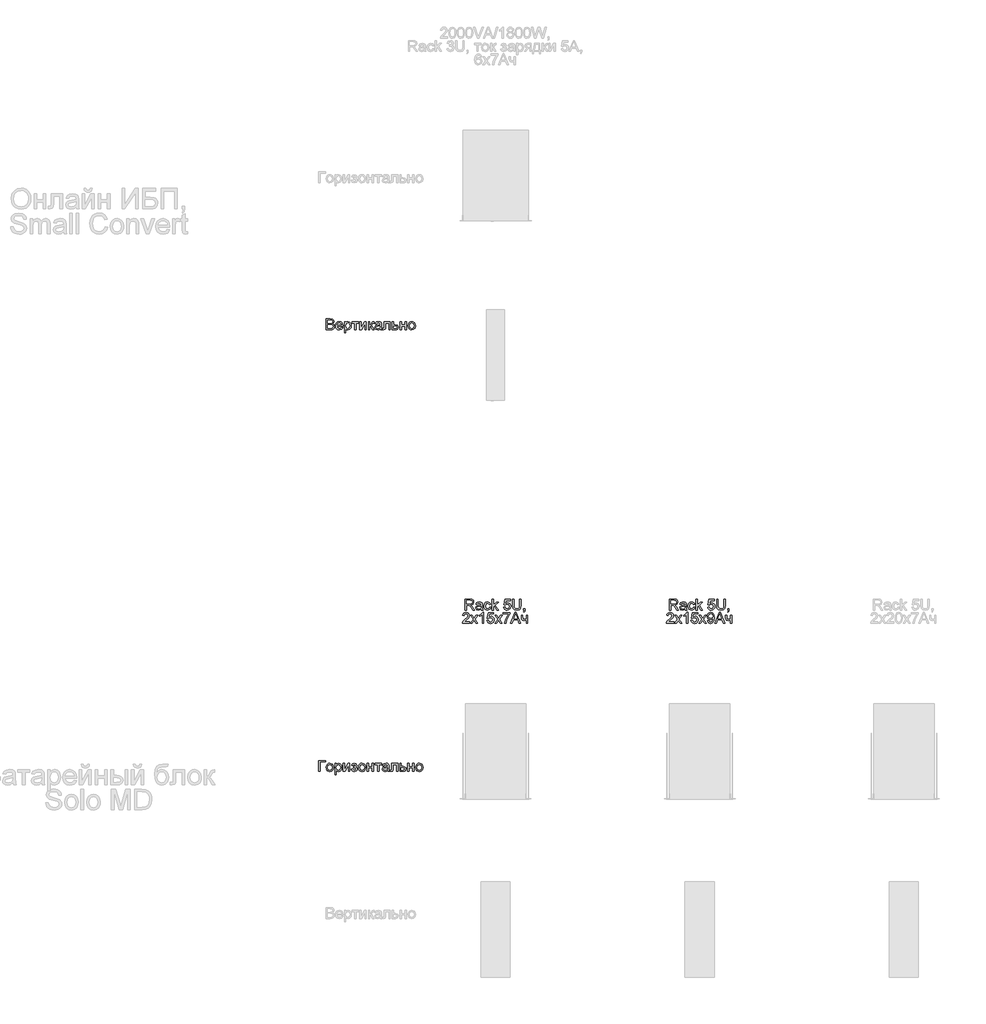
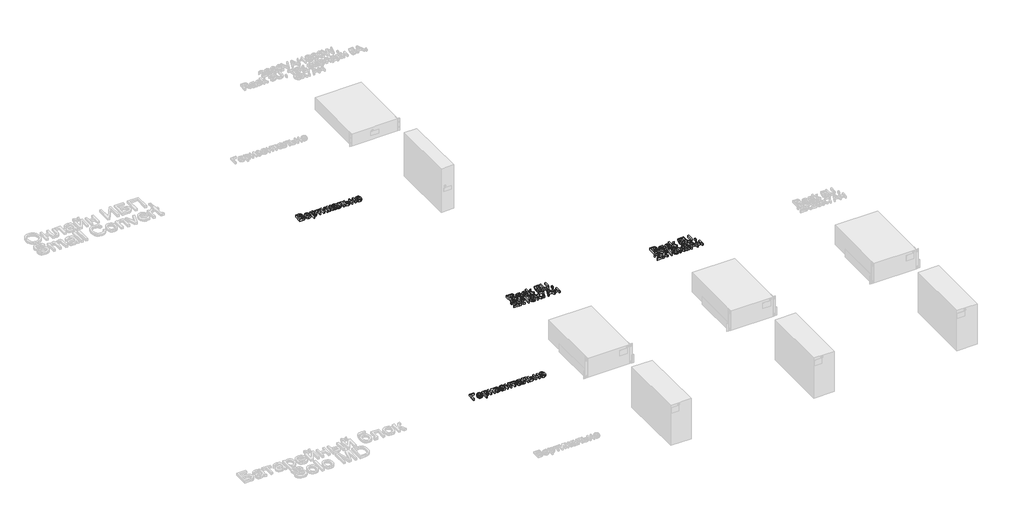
# One storey, part 10 of 74: 4 proxies.
"""IFC4 building model written with IfcOpenShell, lengths in millimetres."""

from ifc_helpers import new_model, si_unit, origin, origin_with_axes, place, context, project, spatial, polyline, outline, extrude, element, save

model = new_model("IFC4")

# Units and contexts
model_context = context("Model", 3, world=origin())
ifc_project = project(units=[si_unit("LENGTHUNIT", "METRE", prefix="MILLI")], contexts=[model_context])

# Site, building, storey
site = spatial("IfcSite", under=ifc_project)
building = spatial("IfcBuilding", under=site)
storey = spatial("IfcBuildingStorey", under=building, Name="Этаж 01", Elevation=0.0)

# Proxies
placement = place(None, origin())
element("IfcBuildingElementProxy", 1, Name="80 мм Arial", ObjectType="80 мм Arial", at=placement, inside=storey, context=model_context, shape_type="SweptSolid", body=[
    extrude(outline(polyline([(107.354428, -36510.0529622), (107.354428, -36429.6879141), (138.0210711, -36429.6879141), (153.0404667, -36432.052169), (161.9088753, -36439.3215172), (165.1168063, -36449.6025927), (162.419005, -36458.9909412), (154.26674, -36466.1033265), (164.1652182, -36473.598309), (167.6282141, -36486.0964867), (165.2639591, -36496.897502), (159.4072778, -36504.5886883), (150.6664016, -36508.6697259), (137.7856266, -36510.0529622), (107.354428, -36510.0529622)]), holes=[polyline([(117.400059, -36462.3362149), (135.7451078, -36462.3362149), (146.4578315, -36461.4729184), (152.9031241, -36457.7548577), (155.0711753, -36451.2114633), (153.0502769, -36444.6582587), (147.2622668, -36440.783235), (134.3520613, -36439.7335451), (117.400059, -36439.7335451), (117.400059, -36462.3362149)]), polyline([(117.400059, -36500.0073312), (138.0014507, -36500.0073312), (145.4571925, -36499.6149237), (151.7651425, -36497.4272521), (155.9442819, -36492.9636172), (157.5825831, -36486.1945885), (155.6597865, -36478.38568), (149.4303181, -36473.7258414), (137.0204321, -36472.3818459), (117.400059, -36472.3818459), (117.400059, -36500.0073312)])]), origin_with_axes(), (0.0, 0.0, 1.0), 20.0),
    extrude(outline(polyline([(221.5057586, -36492.4731079), (231.3551858, -36493.7288118), (222.1434207, -36506.6978784), (204.9854044, -36511.3086661), (193.1984653, -36509.3196507), (184.1289478, -36503.3526048), (178.3458429, -36493.7950305), (176.4181412, -36481.0344304), (178.3654633, -36467.8446346), (184.2074293, -36457.980492), (193.1543195, -36451.8295051), (204.4164136, -36449.7791761), (215.3277936, -36451.8246), (224.0465969, -36457.9608717), (229.7634831, -36467.8053938), (231.6691118, -36480.9755693), (231.6102507, -36483.6831808), (186.4637722, -36483.6831808), (192.2419721, -36496.7307289), (205.1816082, -36501.263035), (215.0310354, -36499.1636551), (221.5057586, -36492.4731079)]), holes=[polyline([(186.4637722, -36473.6375497), (221.6234808, -36473.6375497), (217.6013043, -36464.5336966), (204.3771729, -36459.8248071), (192.0065276, -36463.5821085), (186.4637722, -36473.6375497)])]), origin_with_axes(), (0.0, 0.0, 1.0), 20.0),
    extrude(outline(polyline([(241.7147428, -36532.655632), (241.7147428, -36451.03488), (251.7603738, -36451.03488), (251.7603738, -36460.8843072), (258.7059859, -36452.5554589), (268.0845242, -36449.7791761), (280.8181464, -36453.66401), (289.1371845, -36464.6121781), (291.9428979, -36480.0926525), (288.7742076, -36496.367752), (279.5722527, -36507.4532627), (266.8680611, -36511.3086661), (258.1271849, -36508.728587), (251.7603738, -36502.2048129), (251.7603738, -36532.655632), (241.7147428, -36532.655632)]), holes=[polyline([(251.7603738, -36481.01481), (256.1062865, -36496.318701), (266.652237, -36501.263035), (277.4140116, -36496.1421177), (281.8972669, -36480.2692358), (277.5219237, -36464.9261041), (267.0642648, -36459.8248071), (256.4005921, -36465.2498403), (251.7603738, -36481.01481)])]), origin_with_axes(), (0.0, 0.0, 1.0), 20.0),
    extrude(outline(polyline([(298.2214173, -36451.03488), (345.9381646, -36451.03488), (345.9381646, -36461.080511), (327.1026064, -36461.080511), (327.1026064, -36510.0529622), (317.0569754, -36510.0529622), (317.0569754, -36461.080511), (298.2214173, -36461.080511), (298.2214173, -36451.03488)])), origin_with_axes(), (0.0, 0.0, 1.0), 20.0),
    extrude(outline(polyline([(354.7280917, -36451.03488), (364.7737228, -36451.03488), (364.7737228, -36496.0440158), (389.4561521, -36451.03488), (402.4448391, -36451.03488), (402.4448391, -36510.0529622), (392.399208, -36510.0529622), (392.399208, -36465.3185116), (367.8737417, -36510.0529622), (354.7280917, -36510.0529622), (354.7280917, -36451.03488)])), origin_with_axes(), (0.0, 0.0, 1.0), 20.0),
    extrude(outline(polyline([(417.5132856, -36451.03488), (427.5589166, -36451.03488), (427.5589166, -36476.1489575), (434.2887046, -36474.3438832), (439.8020294, -36463.8273632), (444.3833865, -36454.7529407), (448.4251834, -36451.8000745), (455.7730131, -36451.03488), (457.6958096, -36451.03488), (457.6958096, -36461.1393721), (454.9881982, -36461.080511), (450.0831049, -36462.1400111), (446.6299192, -36468.7520769), (442.5783122, -36475.9037028), (436.8982142, -36479.4059394), (443.2355947, -36483.3152988), (449.455253, -36491.5509504), (460.2072174, -36510.0529622), (448.7881603, -36510.0529622), (438.2520199, -36491.9433578), (432.9545192, -36484.2816021), (427.5589166, -36482.4274769), (427.5589166, -36510.0529622), (417.5132856, -36510.0529622), (417.5132856, -36451.03488)])), origin_with_axes(), (0.0, 0.0, 1.0), 20.0),
    extrude(outline(polyline([(504.1568531, -36502.5187389), (494.4153379, -36509.3270084), (483.6535632, -36511.3086661), (469.0658158, -36506.5409154), (463.974329, -36494.3566637), (465.8971256, -36486.4104126), (470.9493717, -36480.6420229), (477.9832754, -36477.3458003), (486.6751007, -36475.8350315), (504.097992, -36472.3818459), (504.1568531, -36470.1451233), (501.3903805, -36462.7286223), (490.2852493, -36459.8248071), (480.1218961, -36461.7574138), (475.2756639, -36468.6147342), (465.2300329, -36467.3590304), (469.5759455, -36457.5488438), (478.3266319, -36451.8000745), (491.5801939, -36449.7791761), (503.7546354, -36451.56463), (510.6315762, -36456.0478853), (513.7119748, -36462.8659649), (514.2024841, -36471.6558921), (514.2024841, -36484.1540697), (514.7126138, -36501.6063916), (516.7138919, -36510.0529622), (506.6682608, -36510.0529622), (504.1568531, -36502.5187389)]), holes=[polyline([(504.1568531, -36482.4274769), (487.9504249, -36485.5078755), (479.3076506, -36487.1363664), (475.3933862, -36489.7851168), (474.01996, -36493.6503303), (477.0120669, -36499.0851736), (485.7921839, -36501.263035), (495.9555371, -36498.8595393), (502.5087417, -36493.0420987), (504.097992, -36485.272431), (504.1568531, -36482.4274769)])]), origin_with_axes(), (0.0, 0.0, 1.0), 20.0),
    extrude(outline(polyline([(533.0380423, -36451.03488), (578.2433818, -36451.03488), (578.2433818, -36509.9941011), (568.1977508, -36509.9941011), (568.1977508, -36461.080511), (543.0836733, -36461.080511), (543.0836733, -36489.2357463), (542.4067704, -36502.2244333), (538.6887097, -36507.7083276), (529.8987826, -36510.0529622), (521.7367074, -36509.5428325), (521.7367074, -36500.0073312), (526.2297728, -36500.0073312), (530.7718892, -36499.3892894), (532.5867737, -36497.4272521), (533.0380423, -36488.6667555), (533.0380423, -36451.03488)])), origin_with_axes(), (0.0, 0.0, 1.0), 20.0),
    extrude(outline(polyline([(593.3118283, -36451.03488), (603.3574594, -36451.03488), (603.3574594, -36472.3818459), (614.9334795, -36472.3818459), (632.3956115, -36477.4144716), (636.9867788, -36483.4011379), (638.5171679, -36491.2958855), (633.3079589, -36504.5494475), (626.5364776, -36508.6770835), (616.6404519, -36510.0529622), (593.3118283, -36510.0529622), (593.3118283, -36451.03488)]), holes=[polyline([(603.3574594, -36500.0073312), (612.7359977, -36500.0073312), (624.8515781, -36497.8981411), (628.4715369, -36491.3155059), (625.793356, -36485.1350884), (613.9328404, -36482.4274769), (603.3574594, -36482.4274769), (603.3574594, -36500.0073312)])]), origin_with_axes(), (0.0, 0.0, 1.0), 20.0),
    extrude(outline(polyline([(651.0742067, -36451.03488), (661.1198377, -36451.03488), (661.1198377, -36473.6375497), (687.4896191, -36473.6375497), (687.4896191, -36451.03488), (697.5352501, -36451.03488), (697.5352501, -36510.0529622), (687.4896191, -36510.0529622), (687.4896191, -36483.6831808), (661.1198377, -36483.6831808), (661.1198377, -36510.0529622), (651.0742067, -36510.0529622), (651.0742067, -36451.03488)])), origin_with_axes(), (0.0, 0.0, 1.0), 20.0),
    extrude(outline(polyline([(710.0922889, -36480.5439211), (712.2652452, -36466.3142455), (718.7841142, -36456.3127603), (726.8382773, -36451.4125721), (736.4816907, -36449.7791761), (747.0349989, -36451.7681914), (755.4644016, -36457.7352374), (760.9899892, -36467.209425), (762.8318517, -36479.7198654), (759.5748698, -36497.5940253), (750.0884194, -36507.7083276), (736.4816907, -36511.3086661), (725.8008501, -36509.3270084), (717.3812575, -36503.3820353), (711.914531, -36493.7091914), (710.0922889, -36480.5439211)]), holes=[polyline([(720.1379199, -36480.5243007), (724.7879483, -36496.0930667), (736.4816907, -36501.263035), (748.1361923, -36496.0636362), (752.7862207, -36480.2103747), (748.1067617, -36464.9947754), (736.4816907, -36459.8248071), (724.7879483, -36464.975155), (720.1379199, -36480.5243007)])]), origin_with_axes(), (0.0, 0.0, 1.0), 20.0),
])
element("IfcBuildingElementProxy", 2, Name="80 мм Arial", ObjectType="80 мм Arial", at=placement, inside=storey, context=model_context, shape_type="SweptSolid", body=[
    extrude(outline(polyline([(52.7313094, -39673.3898798), (102.9594644, -39673.3898798), (102.9594644, -39683.4355108), (62.7769404, -39683.4355108), (62.7769404, -39753.7549279), (52.7313094, -39753.7549279), (52.7313094, -39673.3898798)])), origin_with_axes(), (0.0, 0.0, 1.0), 20.0),
    extrude(outline(polyline([(107.9822799, -39724.2458868), (110.1552363, -39710.0162112), (116.6741052, -39700.0147261), (124.7282684, -39695.1145379), (134.3716817, -39693.4811418), (144.9249899, -39695.4701571), (153.3543927, -39701.4372031), (158.8799802, -39710.9113907), (160.7218428, -39723.4218311), (157.4648608, -39741.295991), (147.9784105, -39751.4102933), (134.3716817, -39755.0106318), (123.6908411, -39753.0289741), (115.2712485, -39747.0840011), (109.8045221, -39737.4111571), (107.9822799, -39724.2458868)]), holes=[polyline([(118.027911, -39724.2262664), (122.6779394, -39739.7950325), (134.3716817, -39744.9650008), (146.0261833, -39739.7656019), (150.6762117, -39723.9123405), (145.9967528, -39708.6967411), (134.3716817, -39703.5267728), (122.6779394, -39708.6771208), (118.027911, -39724.2262664)])]), origin_with_axes(), (0.0, 0.0, 1.0), 20.0),
    extrude(outline(polyline([(172.0231777, -39776.3575977), (172.0231777, -39694.7368457), (182.0688087, -39694.7368457), (182.0688087, -39704.586273), (189.0144207, -39696.2574246), (198.3929591, -39693.4811418), (211.1265812, -39697.3659757), (219.4456194, -39708.3141439), (222.2513327, -39723.7946182), (219.0826425, -39740.0697177), (209.8806875, -39751.1552285), (197.1764959, -39755.0106318), (188.4356197, -39752.4305527), (182.0688087, -39745.9067787), (182.0688087, -39776.3575977), (172.0231777, -39776.3575977)]), holes=[polyline([(182.0688087, -39724.7167758), (186.4147213, -39740.0206668), (196.9606718, -39744.9650008), (207.7224465, -39739.8440834), (212.2057017, -39723.9712016), (207.8303585, -39708.6280698), (197.3726997, -39703.5267728), (186.7090269, -39708.951806), (182.0688087, -39724.7167758)])]), origin_with_axes(), (0.0, 0.0, 1.0), 20.0),
    extrude(outline(polyline([(233.5526676, -39694.7368457), (243.5982986, -39694.7368457), (243.5982986, -39739.7459815), (268.280728, -39694.7368457), (281.2694149, -39694.7368457), (281.2694149, -39753.7549279), (271.2237839, -39753.7549279), (271.2237839, -39709.0204773), (246.6983176, -39753.7549279), (233.5526676, -39753.7549279), (233.5526676, -39694.7368457)])), origin_with_axes(), (0.0, 0.0, 1.0), 20.0),
    extrude(outline(polyline([(310.1506041, -39727.3851465), (310.1506041, -39717.3395155), (318.0772348, -39716.947108), (322.0797909, -39714.8575383), (323.9633468, -39710.4920053), (321.4421288, -39705.4201388), (314.9379751, -39703.5267728), (308.2179974, -39705.4103286), (303.8720847, -39711.0609961), (292.5707498, -39709.8052922), (300.1245935, -39697.5621794), (313.9177157, -39693.4811418), (328.6722363, -39698.4549064), (334.0089778, -39710.3350423), (332.1107067, -39716.5743209), (326.4158934, -39721.4009327), (333.0573897, -39727.6598317), (335.2646816, -39736.665583), (333.8642775, -39744.0600111), (329.6630651, -39749.919145), (313.9961972, -39755.0106318), (298.5451534, -39750.3017422), (291.315046, -39736.1750736), (302.6163809, -39734.9193698), (307.148687, -39742.3358708), (314.9575955, -39744.9650008), (322.295615, -39742.4437828), (325.2190506, -39735.9984903), (323.4041661, -39730.7206099), (319.5389526, -39727.8952762), (312.1126414, -39727.3262854), (310.1506041, -39727.3851465)])), origin_with_axes(), (0.0, 0.0, 1.0), 20.0),
    extrude(outline(polyline([(345.3103127, -39724.2458868), (347.483269, -39710.0162112), (354.0021379, -39700.0147261), (362.0563011, -39695.1145379), (371.6997145, -39693.4811418), (382.2530226, -39695.4701571), (390.6824254, -39701.4372031), (396.208013, -39710.9113907), (398.0498755, -39723.4218311), (394.7928936, -39741.295991), (385.3064432, -39751.4102933), (371.6997145, -39755.0106318), (361.0188739, -39753.0289741), (352.5992813, -39747.0840011), (347.1325548, -39737.4111571), (345.3103127, -39724.2458868)]), holes=[polyline([(355.3559437, -39724.2262664), (360.0059721, -39739.7950325), (371.6997145, -39744.9650008), (383.3542161, -39739.7656019), (388.0042445, -39723.9123405), (383.3247855, -39708.6967411), (371.6997145, -39703.5267728), (360.0059721, -39708.6771208), (355.3559437, -39724.2262664)])]), origin_with_axes(), (0.0, 0.0, 1.0), 20.0),
    extrude(outline(polyline([(409.3512104, -39694.7368457), (419.3968414, -39694.7368457), (419.3968414, -39717.3395155), (445.7666228, -39717.3395155), (445.7666228, -39694.7368457), (455.8122538, -39694.7368457), (455.8122538, -39753.7549279), (445.7666228, -39753.7549279), (445.7666228, -39727.3851465), (419.3968414, -39727.3851465), (419.3968414, -39753.7549279), (409.3512104, -39753.7549279), (409.3512104, -39694.7368457)])), origin_with_axes(), (0.0, 0.0, 1.0), 20.0),
    extrude(outline(polyline([(465.8578848, -39694.7368457), (513.5746322, -39694.7368457), (513.5746322, -39704.7824767), (494.739074, -39704.7824767), (494.739074, -39753.7549279), (484.693443, -39753.7549279), (484.693443, -39704.7824767), (465.8578848, -39704.7824767), (465.8578848, -39694.7368457)])), origin_with_axes(), (0.0, 0.0, 1.0), 20.0),
    extrude(outline(polyline([(560.0356756, -39746.2207046), (550.2941604, -39753.0289741), (539.5323857, -39755.0106318), (524.9446384, -39750.2428811), (519.8531515, -39738.0586294), (521.7759481, -39730.1123783), (526.8281942, -39724.3439887), (533.8620979, -39721.047766), (542.5539232, -39719.5369973), (559.9768145, -39716.0838116), (560.0356756, -39713.8470891), (557.269203, -39706.430588), (546.1640718, -39703.5267728), (536.0007186, -39705.4593796), (531.1544864, -39712.3167), (521.1088554, -39711.0609961), (525.4547681, -39701.2508096), (534.2054545, -39695.5020402), (547.4590165, -39693.4811418), (559.633458, -39695.2665958), (566.5103987, -39699.749851), (569.5907973, -39706.5679307), (570.0813066, -39715.3578578), (570.0813066, -39727.8560354), (570.5914363, -39745.3083573), (572.5927144, -39753.7549279), (562.5470834, -39753.7549279), (560.0356756, -39746.2207046)]), holes=[polyline([(560.0356756, -39726.1294426), (543.8292474, -39729.2098412), (535.1864731, -39730.8383322), (531.2722087, -39733.4870825), (529.8987826, -39737.352296), (532.8908895, -39742.7871394), (541.6710064, -39744.9650008), (551.8343597, -39742.5615051), (558.3875643, -39736.7440644), (559.9768145, -39728.9743967), (560.0356756, -39726.1294426)])]), origin_with_axes(), (0.0, 0.0, 1.0), 20.0),
    extrude(outline(polyline([(588.9168648, -39694.7368457), (634.1222043, -39694.7368457), (634.1222043, -39753.6960668), (624.0765733, -39753.6960668), (624.0765733, -39704.7824767), (598.9624958, -39704.7824767), (598.9624958, -39732.9377121), (598.2855929, -39745.926399), (594.5675322, -39751.4102933), (585.7776051, -39753.7549279), (577.6155299, -39753.2447982), (577.6155299, -39743.7092969), (582.1085953, -39743.7092969), (586.6507117, -39743.0912551), (588.4655962, -39741.1292178), (588.9168648, -39732.3687213), (588.9168648, -39694.7368457)])), origin_with_axes(), (0.0, 0.0, 1.0), 20.0),
    extrude(outline(polyline([(649.1906509, -39694.7368457), (659.2362819, -39694.7368457), (659.2362819, -39716.0838116), (670.812302, -39716.0838116), (688.274434, -39721.1164373), (692.8656013, -39727.1031036), (694.3959904, -39734.9978512), (689.1867814, -39748.2514133), (682.4153001, -39752.3790492), (672.5192745, -39753.7549279), (649.1906509, -39753.7549279), (649.1906509, -39694.7368457)]), holes=[polyline([(659.2362819, -39743.7092969), (668.6148202, -39743.7092969), (680.7304006, -39741.6001068), (684.3503594, -39735.0174716), (681.6721785, -39728.8370541), (669.811663, -39726.1294426), (659.2362819, -39726.1294426), (659.2362819, -39743.7092969)])]), origin_with_axes(), (0.0, 0.0, 1.0), 20.0),
    extrude(outline(polyline([(706.9530292, -39694.7368457), (716.9986602, -39694.7368457), (716.9986602, -39717.3395155), (743.3684416, -39717.3395155), (743.3684416, -39694.7368457), (753.4140726, -39694.7368457), (753.4140726, -39753.7549279), (743.3684416, -39753.7549279), (743.3684416, -39727.3851465), (716.9986602, -39727.3851465), (716.9986602, -39753.7549279), (706.9530292, -39753.7549279), (706.9530292, -39694.7368457)])), origin_with_axes(), (0.0, 0.0, 1.0), 20.0),
    extrude(outline(polyline([(765.9711114, -39724.2458868), (768.1440677, -39710.0162112), (774.6629367, -39700.0147261), (782.7170998, -39695.1145379), (792.3605132, -39693.4811418), (802.9138214, -39695.4701571), (811.3432242, -39701.4372031), (816.8688117, -39710.9113907), (818.7106742, -39723.4218311), (815.4536923, -39741.295991), (805.9672419, -39751.4102933), (792.3605132, -39755.0106318), (781.6796726, -39753.0289741), (773.26008, -39747.0840011), (767.7933536, -39737.4111571), (765.9711114, -39724.2458868)]), holes=[polyline([(776.0167424, -39724.2262664), (780.6667708, -39739.7950325), (792.3605132, -39744.9650008), (804.0150148, -39739.7656019), (808.6650432, -39723.9123405), (803.9855843, -39708.6967411), (792.3605132, -39703.5267728), (780.6667708, -39708.6771208), (776.0167424, -39724.2262664)])]), origin_with_axes(), (0.0, 0.0, 1.0), 20.0),
])
element("IfcBuildingElementProxy", 3, Name="80 мм Arial", ObjectType="80 мм Arial", at=placement, inside=storey, context=model_context, shape_type="SweptSolid", body=[
    extrude(outline(polyline([(1129.0784863, -38568.2576646), (1129.0784863, -38487.8926165), (1163.7084448, -38487.8926165), (1179.7873406, -38490.0606677), (1188.5772677, -38497.7322336), (1191.8636802, -38509.8870547), (1186.4190267, -38524.3668901), (1169.5945567, -38531.8422522), (1175.3040853, -38536.1391139), (1183.4465401, -38546.4790505), (1196.8472549, -38568.2576646), (1185.173133, -38568.2576646), (1174.7154741, -38551.5999679), (1167.1616305, -38540.5733182), (1161.8543196, -38535.3641092), (1157.0767587, -38533.4511228), (1151.2495079, -38533.0979561), (1139.1241174, -38533.0979561), (1139.1241174, -38568.2576646), (1129.0784863, -38568.2576646)]), holes=[polyline([(1139.1241174, -38523.0523251), (1161.6090649, -38523.0523251), (1173.077173, -38521.629848), (1179.5911368, -38517.0779215), (1181.8180492, -38510.2598418), (1177.5702384, -38501.4110536), (1164.140093, -38497.9382475), (1139.1241174, -38497.9382475), (1139.1241174, -38523.0523251)])]), origin_with_axes(), (0.0, 0.0, 1.0), 20.0),
    extrude(outline(polyline([(1245.8589469, -38560.7234414), (1236.1174317, -38567.5317108), (1225.355657, -38569.5133685), (1210.7679096, -38564.7456178), (1205.6764228, -38552.5613662), (1207.5992194, -38544.6151151), (1212.6514655, -38538.8467254), (1219.6853692, -38535.5505027), (1228.3771945, -38534.039734), (1245.8000858, -38530.5865483), (1245.8589469, -38528.3498258), (1243.0924743, -38520.9333248), (1231.9873431, -38518.0295095), (1221.8239899, -38519.9621163), (1216.9777577, -38526.8194367), (1206.9321267, -38525.5637328), (1211.2780393, -38515.7535463), (1220.0287257, -38510.004777), (1233.2822877, -38507.9838785), (1245.4567292, -38509.7693325), (1252.33367, -38514.2525877), (1255.4140686, -38521.0706674), (1255.9045779, -38529.8605945), (1255.9045779, -38542.3587722), (1256.4147076, -38559.811094), (1258.4159857, -38568.2576646), (1248.3703546, -38568.2576646), (1245.8589469, -38560.7234414)]), holes=[polyline([(1245.8589469, -38540.6321793), (1229.6525187, -38543.7125779), (1221.0097444, -38545.3410689), (1217.09548, -38547.9898192), (1215.7220538, -38551.8550327), (1218.7141607, -38557.2898761), (1227.4942777, -38559.4677375), (1237.6576309, -38557.0642418), (1244.2108356, -38551.2468012), (1245.8000858, -38543.4771334), (1245.8589469, -38540.6321793)])]), origin_with_axes(), (0.0, 0.0, 1.0), 20.0),
    extrude(outline(polyline([(1307.3884369, -38546.9106987), (1317.4340679, -38548.1664026), (1314.6332596, -38557.10103), (1309.3700945, -38563.8528909), (1293.4383516, -38569.5133685), (1282.7526059, -38567.5390685), (1274.3967795, -38561.6161683), (1269.0036295, -38552.0046381), (1267.2059128, -38538.9644476), (1270.2765012, -38522.2773203), (1279.6354191, -38511.5547864), (1293.301009, -38507.9838785), (1308.5754694, -38512.8889718), (1316.178364, -38526.8194367), (1306.132733, -38528.0751406), (1301.4728944, -38520.5507275), (1293.3794905, -38518.0295095), (1281.7347991, -38522.9934639), (1277.2515438, -38538.6897624), (1281.6366972, -38554.5332137), (1293.1048053, -38559.4677375), (1302.5716353, -38556.3873389), (1307.3884369, -38546.9106987)])), origin_with_axes(), (0.0, 0.0, 1.0), 20.0),
    extrude(outline(polyline([(1326.223995, -38568.2576646), (1326.223995, -38487.8926165), (1336.269626, -38487.8926165), (1336.269626, -38531.0770576), (1358.7938143, -38509.2395824), (1372.6850385, -38509.2395824), (1349.8861649, -38531.3517429), (1373.9407423, -38568.2576646), (1362.2077592, -38568.2576646), (1342.685488, -38538.3365957), (1336.269626, -38544.5562539), (1336.269626, -38568.2576646), (1326.223995, -38568.2576646)])), origin_with_axes(), (0.0, 0.0, 1.0), 20.0),
    extrude(outline(polyline([(1411.6118586, -38546.9106987), (1421.6574897, -38545.6549948), (1426.7195459, -38556.0047416), (1437.2164455, -38559.4677375), (1449.812725, -38554.6509359), (1454.3057904, -38541.8682628), (1450.0972204, -38529.939076), (1437.3734085, -38525.5637328), (1428.5540508, -38527.309946), (1422.9131935, -38531.8422522), (1412.8675625, -38530.5865483), (1421.6574897, -38489.1483204), (1460.5843098, -38489.1483204), (1460.5843098, -38499.1939514), (1429.7803241, -38499.1939514), (1425.4834624, -38521.3257322), (1440.1791218, -38515.5181018), (1449.5650178, -38517.318271), (1457.3567585, -38522.7187787), (1462.6027557, -38530.9495252), (1464.3514215, -38541.2404109), (1462.7768865, -38551.2860419), (1458.0532817, -38559.8797653), (1449.0082897, -38567.1049677), (1437.1772048, -38569.5133685), (1427.3106096, -38567.9658116), (1419.4501977, -38563.3231408), (1414.0619527, -38556.1249164), (1411.6118586, -38546.9106987)])), origin_with_axes(), (0.0, 0.0, 1.0), 20.0),
    extrude(outline(polyline([(1529.6480231, -38487.8926165), (1539.6936541, -38487.8926165), (1539.6936541, -38534.2555581), (1536.9664222, -38553.4737135), (1527.1366153, -38565.0497336), (1508.4972609, -38569.5133685), (1490.1424019, -38565.6285346), (1479.9594282, -38554.3762507), (1476.9084602, -38534.2555581), (1476.9084602, -38487.8926165), (1486.9540912, -38487.8926165), (1486.9540912, -38533.9023914), (1488.9357489, -38549.2160926), (1495.7440184, -38556.7993667), (1507.555483, -38559.4677375), (1517.7727923, -38558.1482674), (1524.5663464, -38554.1898571), (1528.3776039, -38546.4790505), (1529.6480231, -38533.9023914), (1529.6480231, -38487.8926165)])), origin_with_axes(), (0.0, 0.0, 1.0), 20.0),
    extrude(outline(polyline([(1558.5292122, -38568.2576646), (1558.5292122, -38558.2120336), (1568.5748432, -38558.2120336), (1568.5748432, -38568.2576646), (1566.7697689, -38578.5289299), (1561.04062, -38584.581815), (1558.5292122, -38580.8147034), (1562.2178424, -38576.4786009), (1563.5324074, -38568.2576646), (1558.5292122, -38568.2576646)])), origin_with_axes(), (0.0, 0.0, 1.0), 20.0),
    extrude(outline(polyline([(1161.0989352, -38655.7918879), (1161.0989352, -38665.8375189), (1108.3593724, -38665.8375189), (1109.4384929, -38658.9115272), (1115.5404289, -38648.2478544), (1128.1170881, -38636.603163), (1145.4614979, -38619.8669848), (1149.7976003, -38608.4871684), (1145.7067525, -38599.2754032), (1135.0234594, -38595.5181018), (1123.8888977, -38599.1871116), (1119.6607073, -38609.3308444), (1109.6150762, -38608.0751406), (1112.0504551, -38598.3581508), (1117.3160727, -38591.2604808), (1125.1372439, -38586.9194733), (1135.2392835, -38585.4724708), (1145.4148995, -38587.0813414), (1153.2213554, -38591.9079531), (1158.1877623, -38599.1184403), (1159.8432313, -38607.8789368), (1158.0577774, -38617.404628), (1152.1226145, -38627.2540552), (1137.7310709, -38641.017747), (1126.1746711, -38650.6807807), (1121.6423649, -38655.7918879), (1161.0989352, -38655.7918879)])), origin_with_axes(), (0.0, 0.0, 1.0), 20.0),
    extrude(outline(polyline([(1167.3774546, -38665.8375189), (1188.8421427, -38636.1715148), (1168.6331585, -38606.8194367), (1180.7193083, -38606.8194367), (1190.4706337, -38620.9461053), (1195.0225602, -38627.6170321), (1198.9662552, -38622.1625684), (1210.0713864, -38606.8194367), (1222.1575362, -38606.8194367), (1200.9282925, -38636.1715148), (1221.3727213, -38665.8375189), (1209.2865715, -38665.8375189), (1196.9845976, -38648.0025998), (1194.7282547, -38644.7456178), (1179.4636044, -38665.8375189), (1167.3774546, -38665.8375189)])), origin_with_axes(), (0.0, 0.0, 1.0), 20.0),
    extrude(outline(polyline([(1265.322357, -38665.8375189), (1255.276726, -38665.8375189), (1255.276726, -38603.209288), (1245.760845, -38609.9881269), (1235.1854639, -38615.0599934), (1235.1854639, -38605.5637328), (1249.9105539, -38596.1655741), (1258.8476339, -38585.4724708), (1265.322357, -38585.4724708), (1265.322357, -38665.8375189)])), origin_with_axes(), (0.0, 0.0, 1.0), 20.0),
    extrude(outline(polyline([(1289.1807306, -38644.490553), (1299.2263617, -38643.2348491), (1304.2884179, -38653.5845959), (1314.7853175, -38657.0475918), (1327.381597, -38652.2307902), (1331.8746625, -38639.4481171), (1327.6660924, -38627.5189303), (1314.9422805, -38623.1435871), (1306.1229228, -38624.8898003), (1300.4820655, -38629.4221065), (1290.4364345, -38628.1664026), (1299.2263617, -38586.7281747), (1338.1531818, -38586.7281747), (1338.1531818, -38596.7738057), (1307.3491961, -38596.7738057), (1303.0523344, -38618.9055865), (1317.7479938, -38613.0979561), (1327.1338898, -38614.8981253), (1334.9256305, -38620.298633), (1340.1716277, -38628.5293795), (1341.9202935, -38638.8202652), (1340.3457585, -38648.8658962), (1335.6221537, -38657.4596196), (1326.5771617, -38664.684822), (1314.7460768, -38667.0932228), (1304.8794816, -38665.5456659), (1297.0190697, -38660.9029951), (1291.6308247, -38653.7047707), (1289.1807306, -38644.490553)])), origin_with_axes(), (0.0, 0.0, 1.0), 20.0),
    extrude(outline(polyline([(1346.943109, -38665.8375189), (1368.4077971, -38636.1715148), (1348.1988129, -38606.8194367), (1360.2849627, -38606.8194367), (1370.0362881, -38620.9461053), (1374.5882146, -38627.6170321), (1378.5319096, -38622.1625684), (1389.6370408, -38606.8194367), (1401.7231906, -38606.8194367), (1380.4939469, -38636.1715148), (1400.9383757, -38665.8375189), (1388.8522259, -38665.8375189), (1376.5502519, -38648.0025998), (1374.293909, -38644.7456178), (1359.0292588, -38665.8375189), (1346.943109, -38665.8375189)])), origin_with_axes(), (0.0, 0.0, 1.0), 20.0),
    extrude(outline(polyline([(1407.2168951, -38596.7738057), (1407.2168951, -38586.7281747), (1459.9564579, -38586.7281747), (1459.9564579, -38594.8510091), (1444.9959234, -38616.4628501), (1433.5474357, -38644.0000437), (1429.8195649, -38665.8375189), (1419.7739338, -38665.8375189), (1423.7666798, -38643.175988), (1434.7246581, -38617.5615909), (1449.9108269, -38596.7738057), (1407.2168951, -38596.7738057)])), origin_with_axes(), (0.0, 0.0, 1.0), 20.0),
    extrude(outline(polyline([(1463.1545787, -38665.8375189), (1495.2338887, -38585.4724708), (1503.7883713, -38585.4724708), (1535.8676813, -38665.8375189), (1525.2530595, -38665.8375189), (1516.0511045, -38640.7234414), (1482.9515351, -38640.7234414), (1473.7692005, -38665.8375189), (1463.1545787, -38665.8375189)]), holes=[polyline([(1486.6401653, -38630.6778103), (1512.3820948, -38630.6778103), (1505.1421771, -38610.9200947), (1499.51113, -38595.5181018), (1494.5079349, -38609.1935018), (1486.6401653, -38630.6778103)])]), origin_with_axes(), (0.0, 0.0, 1.0), 20.0),
    extrude(outline(polyline([(1541.5772099, -38606.8194367), (1551.6228409, -38606.8194367), (1551.6228409, -38618.140392), (1552.4370864, -38628.7550138), (1556.3513508, -38634.5037831), (1564.1210186, -38636.9563297), (1577.9926223, -38633.9151719), (1577.9926223, -38606.8194367), (1588.0382533, -38606.8194367), (1588.0382533, -38665.8375189), (1577.9926223, -38665.8375189), (1577.9926223, -38643.5487751), (1561.4330274, -38647.0019607), (1550.0434009, -38643.4016223), (1543.3430435, -38634.5822646), (1541.5772099, -38623.1043463), (1541.5772099, -38606.8194367)])), origin_with_axes(), (0.0, 0.0, 1.0), 20.0),
])
element("IfcBuildingElementProxy", 4, Name="80 мм Arial", ObjectType="80 мм Arial", at=placement, inside=storey, context=model_context, shape_type="SweptSolid", body=[
    extrude(outline(polyline([(2629.0784863, -38568.2576646), (2629.0784863, -38487.8926165), (2663.7084448, -38487.8926165), (2679.7873406, -38490.0606677), (2688.5772677, -38497.7322336), (2691.8636802, -38509.8870547), (2686.4190267, -38524.3668901), (2669.5945567, -38531.8422522), (2675.3040853, -38536.1391139), (2683.4465401, -38546.4790505), (2696.8472549, -38568.2576646), (2685.173133, -38568.2576646), (2674.7154741, -38551.5999679), (2667.1616305, -38540.5733182), (2661.8543196, -38535.3641092), (2657.0767587, -38533.4511228), (2651.2495079, -38533.0979561), (2639.1241174, -38533.0979561), (2639.1241174, -38568.2576646), (2629.0784863, -38568.2576646)]), holes=[polyline([(2639.1241174, -38523.0523251), (2661.6090649, -38523.0523251), (2673.077173, -38521.629848), (2679.5911368, -38517.0779215), (2681.8180492, -38510.2598418), (2677.5702384, -38501.4110536), (2664.140093, -38497.9382475), (2639.1241174, -38497.9382475), (2639.1241174, -38523.0523251)])]), origin_with_axes(), (0.0, 0.0, 1.0), 20.0),
    extrude(outline(polyline([(2745.8589469, -38560.7234414), (2736.1174317, -38567.5317108), (2725.355657, -38569.5133685), (2710.7679096, -38564.7456178), (2705.6764228, -38552.5613662), (2707.5992194, -38544.6151151), (2712.6514655, -38538.8467254), (2719.6853692, -38535.5505027), (2728.3771945, -38534.039734), (2745.8000858, -38530.5865483), (2745.8589469, -38528.3498258), (2743.0924743, -38520.9333248), (2731.9873431, -38518.0295095), (2721.8239899, -38519.9621163), (2716.9777577, -38526.8194367), (2706.9321267, -38525.5637328), (2711.2780393, -38515.7535463), (2720.0287257, -38510.004777), (2733.2822877, -38507.9838785), (2745.4567292, -38509.7693325), (2752.33367, -38514.2525877), (2755.4140686, -38521.0706674), (2755.9045779, -38529.8605945), (2755.9045779, -38542.3587722), (2756.4147076, -38559.811094), (2758.4159857, -38568.2576646), (2748.3703546, -38568.2576646), (2745.8589469, -38560.7234414)]), holes=[polyline([(2745.8589469, -38540.6321793), (2729.6525187, -38543.7125779), (2721.0097444, -38545.3410689), (2717.09548, -38547.9898192), (2715.7220538, -38551.8550327), (2718.7141607, -38557.2898761), (2727.4942777, -38559.4677375), (2737.6576309, -38557.0642418), (2744.2108356, -38551.2468012), (2745.8000858, -38543.4771334), (2745.8589469, -38540.6321793)])]), origin_with_axes(), (0.0, 0.0, 1.0), 20.0),
    extrude(outline(polyline([(2807.3884369, -38546.9106987), (2817.4340679, -38548.1664026), (2814.6332596, -38557.10103), (2809.3700945, -38563.8528909), (2793.4383516, -38569.5133685), (2782.7526059, -38567.5390685), (2774.3967795, -38561.6161683), (2769.0036295, -38552.0046381), (2767.2059128, -38538.9644476), (2770.2765012, -38522.2773203), (2779.6354191, -38511.5547864), (2793.301009, -38507.9838785), (2808.5754694, -38512.8889718), (2816.178364, -38526.8194367), (2806.132733, -38528.0751406), (2801.4728944, -38520.5507275), (2793.3794905, -38518.0295095), (2781.7347991, -38522.9934639), (2777.2515438, -38538.6897624), (2781.6366972, -38554.5332137), (2793.1048053, -38559.4677375), (2802.5716353, -38556.3873389), (2807.3884369, -38546.9106987)])), origin_with_axes(), (0.0, 0.0, 1.0), 20.0),
    extrude(outline(polyline([(2826.223995, -38568.2576646), (2826.223995, -38487.8926165), (2836.269626, -38487.8926165), (2836.269626, -38531.0770576), (2858.7938143, -38509.2395824), (2872.6850385, -38509.2395824), (2849.8861649, -38531.3517429), (2873.9407423, -38568.2576646), (2862.2077592, -38568.2576646), (2842.685488, -38538.3365957), (2836.269626, -38544.5562539), (2836.269626, -38568.2576646), (2826.223995, -38568.2576646)])), origin_with_axes(), (0.0, 0.0, 1.0), 20.0),
    extrude(outline(polyline([(2911.6118586, -38546.9106987), (2921.6574897, -38545.6549948), (2926.7195459, -38556.0047416), (2937.2164455, -38559.4677375), (2949.812725, -38554.6509359), (2954.3057904, -38541.8682628), (2950.0972204, -38529.939076), (2937.3734085, -38525.5637328), (2928.5540508, -38527.309946), (2922.9131935, -38531.8422522), (2912.8675625, -38530.5865483), (2921.6574897, -38489.1483204), (2960.5843098, -38489.1483204), (2960.5843098, -38499.1939514), (2929.7803241, -38499.1939514), (2925.4834624, -38521.3257322), (2940.1791218, -38515.5181018), (2949.5650178, -38517.318271), (2957.3567585, -38522.7187787), (2962.6027557, -38530.9495252), (2964.3514215, -38541.2404109), (2962.7768865, -38551.2860419), (2958.0532817, -38559.8797653), (2949.0082897, -38567.1049677), (2937.1772048, -38569.5133685), (2927.3106096, -38567.9658116), (2919.4501977, -38563.3231408), (2914.0619527, -38556.1249164), (2911.6118586, -38546.9106987)])), origin_with_axes(), (0.0, 0.0, 1.0), 20.0),
    extrude(outline(polyline([(3029.6480231, -38487.8926165), (3039.6936541, -38487.8926165), (3039.6936541, -38534.2555581), (3036.9664222, -38553.4737135), (3027.1366153, -38565.0497336), (3008.4972609, -38569.5133685), (2990.1424019, -38565.6285346), (2979.9594282, -38554.3762507), (2976.9084602, -38534.2555581), (2976.9084602, -38487.8926165), (2986.9540912, -38487.8926165), (2986.9540912, -38533.9023914), (2988.9357489, -38549.2160926), (2995.7440184, -38556.7993667), (3007.555483, -38559.4677375), (3017.7727923, -38558.1482674), (3024.5663464, -38554.1898571), (3028.3776039, -38546.4790505), (3029.6480231, -38533.9023914), (3029.6480231, -38487.8926165)])), origin_with_axes(), (0.0, 0.0, 1.0), 20.0),
    extrude(outline(polyline([(3058.5292122, -38568.2576646), (3058.5292122, -38558.2120336), (3068.5748432, -38558.2120336), (3068.5748432, -38568.2576646), (3066.7697689, -38578.5289299), (3061.04062, -38584.581815), (3058.5292122, -38580.8147034), (3062.2178424, -38576.4786009), (3063.5324074, -38568.2576646), (3058.5292122, -38568.2576646)])), origin_with_axes(), (0.0, 0.0, 1.0), 20.0),
    extrude(outline(polyline([(2661.0989352, -38655.7918879), (2661.0989352, -38665.8375189), (2608.3593724, -38665.8375189), (2609.4384929, -38658.9115272), (2615.5404289, -38648.2478544), (2628.1170881, -38636.603163), (2645.4614979, -38619.8669848), (2649.7976003, -38608.4871684), (2645.7067525, -38599.2754032), (2635.0234594, -38595.5181018), (2623.8888977, -38599.1871116), (2619.6607073, -38609.3308444), (2609.6150762, -38608.0751406), (2612.0504551, -38598.3581508), (2617.3160727, -38591.2604808), (2625.1372439, -38586.9194733), (2635.2392835, -38585.4724708), (2645.4148995, -38587.0813414), (2653.2213554, -38591.9079531), (2658.1877623, -38599.1184403), (2659.8432313, -38607.8789368), (2658.0577774, -38617.404628), (2652.1226145, -38627.2540552), (2637.7310709, -38641.017747), (2626.1746711, -38650.6807807), (2621.6423649, -38655.7918879), (2661.0989352, -38655.7918879)])), origin_with_axes(), (0.0, 0.0, 1.0), 20.0),
    extrude(outline(polyline([(2667.3774546, -38665.8375189), (2688.8421427, -38636.1715148), (2668.6331585, -38606.8194367), (2680.7193083, -38606.8194367), (2690.4706337, -38620.9461053), (2695.0225602, -38627.6170321), (2698.9662552, -38622.1625684), (2710.0713864, -38606.8194367), (2722.1575362, -38606.8194367), (2700.9282925, -38636.1715148), (2721.3727213, -38665.8375189), (2709.2865715, -38665.8375189), (2696.9845976, -38648.0025998), (2694.7282547, -38644.7456178), (2679.4636044, -38665.8375189), (2667.3774546, -38665.8375189)])), origin_with_axes(), (0.0, 0.0, 1.0), 20.0),
    extrude(outline(polyline([(2765.322357, -38665.8375189), (2755.276726, -38665.8375189), (2755.276726, -38603.209288), (2745.760845, -38609.9881269), (2735.1854639, -38615.0599934), (2735.1854639, -38605.5637328), (2749.9105539, -38596.1655741), (2758.8476339, -38585.4724708), (2765.322357, -38585.4724708), (2765.322357, -38665.8375189)])), origin_with_axes(), (0.0, 0.0, 1.0), 20.0),
    extrude(outline(polyline([(2789.1807306, -38644.490553), (2799.2263617, -38643.2348491), (2804.2884179, -38653.5845959), (2814.7853175, -38657.0475918), (2827.381597, -38652.2307902), (2831.8746625, -38639.4481171), (2827.6660924, -38627.5189303), (2814.9422805, -38623.1435871), (2806.1229228, -38624.8898003), (2800.4820655, -38629.4221065), (2790.4364345, -38628.1664026), (2799.2263617, -38586.7281747), (2838.1531818, -38586.7281747), (2838.1531818, -38596.7738057), (2807.3491961, -38596.7738057), (2803.0523344, -38618.9055865), (2817.7479938, -38613.0979561), (2827.1338898, -38614.8981253), (2834.9256305, -38620.298633), (2840.1716277, -38628.5293795), (2841.9202935, -38638.8202652), (2840.3457585, -38648.8658962), (2835.6221537, -38657.4596196), (2826.5771617, -38664.684822), (2814.7460768, -38667.0932228), (2804.8794816, -38665.5456659), (2797.0190697, -38660.9029951), (2791.6308247, -38653.7047707), (2789.1807306, -38644.490553)])), origin_with_axes(), (0.0, 0.0, 1.0), 20.0),
    extrude(outline(polyline([(2846.943109, -38665.8375189), (2868.4077971, -38636.1715148), (2848.1988129, -38606.8194367), (2860.2849627, -38606.8194367), (2870.0362881, -38620.9461053), (2874.5882146, -38627.6170321), (2878.5319096, -38622.1625684), (2889.6370408, -38606.8194367), (2901.7231906, -38606.8194367), (2880.4939469, -38636.1715148), (2900.9383757, -38665.8375189), (2888.8522259, -38665.8375189), (2876.5502519, -38648.0025998), (2874.293909, -38644.7456178), (2859.0292588, -38665.8375189), (2846.943109, -38665.8375189)])), origin_with_axes(), (0.0, 0.0, 1.0), 20.0),
    extrude(outline(polyline([(2908.4725989, -38645.7462569), (2918.51823, -38644.490553), (2923.0309158, -38654.0751052), (2931.5853984, -38657.0475918), (2939.7180431, -38655.1346054), (2945.2313679, -38650.0234982), (2948.5177804, -38641.2924322), (2949.969688, -38629.6379306), (2949.9108269, -38627.6758933), (2941.8762841, -38635.288598), (2930.8594446, -38638.2120336), (2921.6991829, -38636.4265797), (2914.0742155, -38631.0702178), (2908.9312252, -38622.7953255), (2907.2168951, -38612.25428), (2909.0146117, -38601.364973), (2914.4077618, -38592.8301107), (2922.5085233, -38587.3118808), (2932.4290745, -38585.4724708), (2946.7421366, -38589.6712306), (2956.5915639, -38601.6396582), (2959.9564579, -38624.1246057), (2956.6013741, -38648.5225397), (2946.6244144, -38662.3450925), (2931.1145095, -38667.0932228), (2922.5256912, -38665.6928186), (2915.6732759, -38661.4916063), (2908.4725989, -38645.7462569)]), holes=[polyline([(2949.9108269, -38612.0188356), (2945.5747244, -38599.9719265), (2934.0575654, -38595.5181018), (2921.9714156, -38600.315283), (2917.2625261, -38612.7447894), (2921.7163508, -38623.8793511), (2933.7828802, -38628.1664026), (2945.3687105, -38623.8793511), (2949.9108269, -38612.0188356)])]), origin_with_axes(), (0.0, 0.0, 1.0), 20.0),
    extrude(outline(polyline([(2963.1545787, -38665.8375189), (2995.2338887, -38585.4724708), (3003.7883713, -38585.4724708), (3035.8676813, -38665.8375189), (3025.2530595, -38665.8375189), (3016.0511045, -38640.7234414), (2982.9515351, -38640.7234414), (2973.7692005, -38665.8375189), (2963.1545787, -38665.8375189)]), holes=[polyline([(2986.6401653, -38630.6778103), (3012.3820948, -38630.6778103), (3005.1421771, -38610.9200947), (2999.51113, -38595.5181018), (2994.5079349, -38609.1935018), (2986.6401653, -38630.6778103)])]), origin_with_axes(), (0.0, 0.0, 1.0), 20.0),
    extrude(outline(polyline([(3041.5772099, -38606.8194367), (3051.6228409, -38606.8194367), (3051.6228409, -38618.140392), (3052.4370864, -38628.7550138), (3056.3513508, -38634.5037831), (3064.1210186, -38636.9563297), (3077.9926223, -38633.9151719), (3077.9926223, -38606.8194367), (3088.0382533, -38606.8194367), (3088.0382533, -38665.8375189), (3077.9926223, -38665.8375189), (3077.9926223, -38643.5487751), (3061.4330274, -38647.0019607), (3050.0434009, -38643.4016223), (3043.3430435, -38634.5822646), (3041.5772099, -38623.1043463), (3041.5772099, -38606.8194367)])), origin_with_axes(), (0.0, 0.0, 1.0), 20.0),
])

save(model, "model.ifc")
